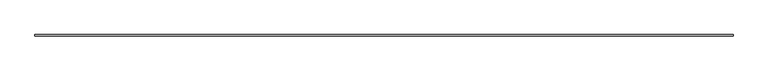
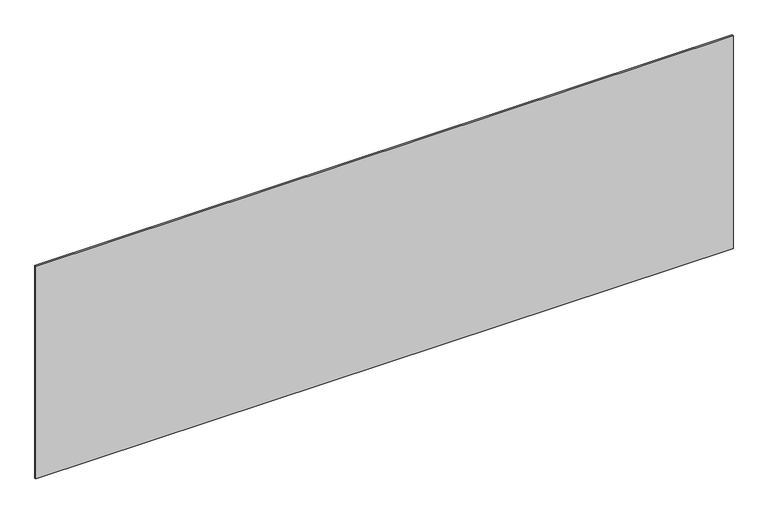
"""IFC4 building model written with IfcOpenShell, lengths in millimetres: plate geometry, システム パネル : 標準."""

import ifcopenshell
import ifcopenshell.guid

model = None  # the IFC model being written
_history = None  # IfcOwnerHistory: only IFC2X3 demands one
_inside = {}  # id of a spatial element -> (the spatial element, [elements in it])
_under = {}  # id of a project, library or spatial element -> (it, [spatial elements below it])
_declared = {}  # id of a project -> (the project, [libraries it declares])
_typed = {}  # id of a type object -> (the type object, [elements of that type])
_made_of = {}  # id of a material, layer set ... -> (it, [elements and type objects made of it])


def new_model(schema):
    """Start an empty IFC model of exactly this schema.

    Asked for "IFC4X3", IfcOpenShell would pick the latest addendum, in which some entities
    have other attributes; the version numbers below select the first issue.
    IFC2X3 requires an IfcOwnerHistory on every rooted entity: one is made here for all.
    """
    global model, _history
    if schema == "IFC4X3":
        model = ifcopenshell.file(schema_version=(4, 3, 0, 0))
    else:
        model = ifcopenshell.file(schema=schema)
    _inside.clear()
    _under.clear()
    _declared.clear()
    _typed.clear()
    _made_of.clear()
    _history = None
    if model.schema == "IFC2X3":
        org = make("IfcOrganization", Name="unknown")
        user = make(
            "IfcPersonAndOrganization",
            ThePerson=make("IfcPerson", FamilyName="unknown"),
            TheOrganization=org,
        )
        app = make(
            "IfcApplication",
            ApplicationDeveloper=org,
            Version="unknown",
            ApplicationFullName="unknown",
            ApplicationIdentifier="unknown",
        )
        _history = make(
            "IfcOwnerHistory",
            OwningUser=user,
            OwningApplication=app,
            ChangeAction="ADDED",
            CreationDate=0,
        )
    return model


def make(cls, **values):
    """One entity of the class cls with the attributes given. An attribute that is None is left unset."""
    return model.create_entity(
        cls, **{name: value for name, value in values.items() if value is not None}
    )


def rooted(cls, **values):
    """An entity with a GlobalId (a new one), such as an element, a storey or a relation."""
    return make(cls, GlobalId=ifcopenshell.guid.new(), OwnerHistory=_history, **values)


def si_unit(unit_type, name, prefix=None):
    """IfcSIUnit, for example si_unit("LENGTHUNIT", "METRE", prefix="MILLI")."""
    return make("IfcSIUnit", UnitType=unit_type, Prefix=prefix, Name=name)


def assignment(units):
    """IfcUnitAssignment: the units of a project."""
    return None if units is None else make("IfcUnitAssignment", Units=units)


def point(xyz):
    """IfcCartesianPoint."""
    return None if xyz is None else make("IfcCartesianPoint", Coordinates=xyz)


def direction(xyz):
    """IfcDirection."""
    return None if xyz is None else make("IfcDirection", DirectionRatios=xyz)


def frame(location, z_axis=None, x_axis=None):
    """IfcAxis2Placement3D, a coordinate frame: its origin and axes. An axis left out is left unset."""
    return make(
        "IfcAxis2Placement3D",
        Location=point(location),
        Axis=direction(z_axis),
        RefDirection=direction(x_axis),
    )


def origin():
    """The frame at (0, 0, 0) with its axes left unset."""
    return frame((0.0, 0.0, 0.0))


def origin_with_axes():
    """The frame at (0, 0, 0) with the z axis (0, 0, 1) and the x axis (1, 0, 0) written out."""
    return frame((0.0, 0.0, 0.0), z_axis=(0.0, 0.0, 1.0), x_axis=(1.0, 0.0, 0.0))


def place(relative_to, where):
    """IfcLocalPlacement: puts the frame where relative to a parent placement (None: the world)."""
    return make(
        "IfcLocalPlacement", PlacementRelTo=relative_to, RelativePlacement=where
    )


def context(
    kind, dimensions, precision=None, world=None, true_north=None, identifier=None
):
    """IfcGeometricRepresentationContext, for example the 3D "Model" context."""
    return make(
        "IfcGeometricRepresentationContext",
        ContextIdentifier=identifier,
        ContextType=kind,
        CoordinateSpaceDimension=dimensions,
        Precision=precision,
        WorldCoordinateSystem=world,
        TrueNorth=true_north,
    )


def project(units=None, contexts=None):
    """IfcProject with its units and contexts."""
    return rooted(
        "IfcProject",
        Name="project",
        RepresentationContexts=contexts,
        UnitsInContext=assignment(units),
    )


def spatial(cls, under=None, at=None, **own):
    """A site, building, storey or space (cls), placed at a placement, below another one or the project."""
    s = rooted(cls, ObjectPlacement=at, **own)
    if under is not None:
        _under.setdefault(under.id(), (under, []))[1].append(s)
    return s


def polyline(points):
    """IfcPolyline through the points."""
    return make("IfcPolyline", Points=[point(p) for p in points])


def outline(outer, holes=None, kind="AREA"):
    """IfcArbitraryClosedProfileDef: a profile drawn as a closed curve; with holes, ...WithVoids."""
    if holes is None:
        return make("IfcArbitraryClosedProfileDef", ProfileType=kind, OuterCurve=outer)
    return make(
        "IfcArbitraryProfileDefWithVoids",
        ProfileType=kind,
        OuterCurve=outer,
        InnerCurves=holes,
    )


def extrude(swept, where, along, depth):
    """IfcExtrudedAreaSolid: the profile swept, set in the frame where, extruded along a direction by depth."""
    return make(
        "IfcExtrudedAreaSolid",
        SweptArea=swept,
        Position=where,
        ExtrudedDirection=direction(along),
        Depth=depth,
    )


def shape(context_of_items, identifier, shape_type, items):
    """IfcShapeRepresentation: the items that make up one representation, for example the "Body"."""
    return make(
        "IfcShapeRepresentation",
        ContextOfItems=context_of_items,
        RepresentationIdentifier=identifier,
        RepresentationType=shape_type,
        Items=items,
    )


def source(mapping_origin, context_of_items, identifier, shape_type, items):
    """IfcRepresentationMap: a shape defined once, which mapped items show again and again."""
    return make(
        "IfcRepresentationMap",
        MappingOrigin=mapping_origin,
        MappedRepresentation=shape(context_of_items, identifier, shape_type, items),
    )


def transform(
    local_origin,
    x_axis=None,
    y_axis=None,
    z_axis=None,
    scale=None,
    scale2=None,
    scale3=None,
    uniform=True,
):
    """IfcCartesianTransformationOperator3D, or its non-uniform kind. x_axis, y_axis, z_axis: its Axis1, 2, 3."""
    if uniform:
        return make(
            "IfcCartesianTransformationOperator3D",
            Axis1=direction(x_axis),
            Axis2=direction(y_axis),
            LocalOrigin=point(local_origin),
            Scale=scale,
            Axis3=direction(z_axis),
        )
    return make(
        "IfcCartesianTransformationOperator3DnonUniform",
        Axis1=direction(x_axis),
        Axis2=direction(y_axis),
        LocalOrigin=point(local_origin),
        Scale=scale,
        Axis3=direction(z_axis),
        Scale2=scale2,
        Scale3=scale3,
    )


def mapped(mapping_source, mapping_target):
    """IfcMappedItem: shows the shape of a source again, moved by a transform."""
    return make(
        "IfcMappedItem", MappingSource=mapping_source, MappingTarget=mapping_target
    )


def made_of(thing, what):
    """Note that an element or type object is made of a material, layer set ...; save() writes the relation."""
    if what is not None:
        _made_of.setdefault(what.id(), (what, []))[1].append(thing)
    return thing


def element(
    cls,
    number,
    at=None,
    inside=None,
    cuts=None,
    type_object=None,
    material=None,
    context=None,
    identifier="Body",
    shape_type=None,
    held_by="IfcProductDefinitionShape",
    body=None,
    shapes=None,
    **own,
):
    """One element of the class cls, such as IfcWall. Its Tag is "e" and its number.

    at: its placement. inside: the storey or other place that contains it. cuts: it is an
    opening in that element (IfcRelVoidsElement). A single representation is given by context,
    identifier, shape_type and body (its items); several are given by shapes. held_by: the class
    of the entity that holds the representations. save() writes the other relations.
    """
    e = rooted(cls, Tag="e%d" % number, ObjectPlacement=at, **own)
    if body is not None:
        shapes = [shape(context, identifier, shape_type, body)]
    if shapes is not None:
        e.Representation = make(held_by, Representations=shapes)
    if inside is not None:
        _inside.setdefault(inside.id(), (inside, []))[1].append(e)
    if cuts is not None:
        rooted(
            "IfcRelVoidsElement", RelatingBuildingElement=cuts, RelatedOpeningElement=e
        )
    if type_object is not None:
        _typed.setdefault(type_object.id(), (type_object, []))[1].append(e)
    return made_of(e, material)


def aggregate(whole, parts):
    """IfcRelAggregates: a whole, such as a stair, and the parts it consists of."""
    return rooted("IfcRelAggregates", RelatingObject=whole, RelatedObjects=parts)


def save(model, path):
    """Write the relations noted so far, then the file.

    IfcRelAggregates (storeys below a building ...), IfcRelContainedInSpatialStructure (elements
    in a storey), IfcRelDefinesByType, IfcRelAssociatesMaterial and IfcRelDeclares: one each for
    every whole, place, type object, material and project.
    """
    for whole, parts in _under.values():
        aggregate(whole, parts)
    for where, things in _inside.values():
        rooted(
            "IfcRelContainedInSpatialStructure",
            RelatedElements=things,
            RelatingStructure=where,
        )
    for kind, things in _typed.values():
        rooted("IfcRelDefinesByType", RelatedObjects=things, RelatingType=kind)
    for what, things in _made_of.values():
        rooted("IfcRelAssociatesMaterial", RelatedObjects=things, RelatingMaterial=what)
    for by, libraries in _declared.values():
        rooted("IfcRelDeclares", RelatingContext=by, RelatedDefinitions=libraries)
    model.write(path)


def plate_7901c3a2(model_context):
    return source(origin(), model_context, "Body", "SweptSolid", [
        extrude(outline(polyline([(2264.1666667, -5.0), (-2264.1666667, -5.0), (-2264.1666667, 5.0), (2264.1666667, 5.0), (2264.1666667, -5.0)])), origin_with_axes(), (0.0, 0.0, 1.0), 1460.5679589),
    ])


if __name__ == "__main__":
    model = new_model("IFC4")
    model_context = context("Model", 3, world=origin())
    ifc_project = project(units=[si_unit("LENGTHUNIT", "METRE", prefix="MILLI")], contexts=[model_context])
    site = spatial("IfcSite", under=ifc_project)
    building = spatial("IfcBuilding", under=site)
    placement = place(None, origin())
    plate_shape = plate_7901c3a2(model_context)
    element("IfcPlate", 1, ObjectType="システム パネル : 標準", at=placement, inside=building, context=model_context, shape_type="MappedRepresentation", body=[
        mapped(plate_shape, transform((0.0, 0.0, 0.0), x_axis=(1.0, 0.0, 0.0), y_axis=(0.0, 1.0, 0.0), z_axis=(0.0, 0.0, 1.0))),
    ])
    save(model, "model.ifc")
